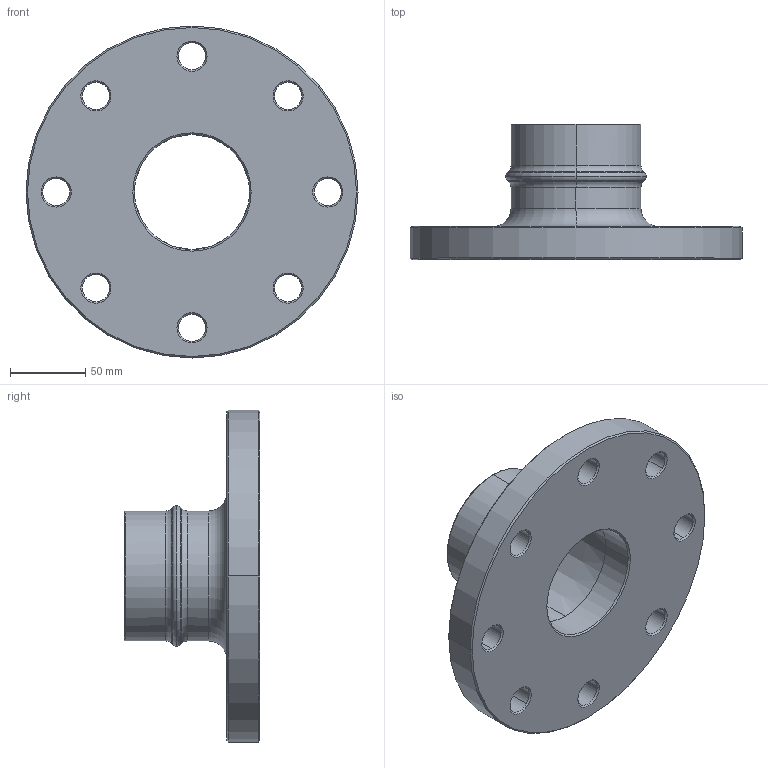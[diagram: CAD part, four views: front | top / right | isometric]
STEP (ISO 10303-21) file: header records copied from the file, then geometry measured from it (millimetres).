
FILE_DESCRIPTION((''),'2;1');
FILE_NAME('AU15877100','2019-12-13T',('Administrator'),(''),'PRO/ENGINEER BY PARAMETRIC TECHNOLOGY CORPORATION, 2009360','PRO/ENGINEER BY PARAMETRIC TECHNOLOGY CORPORATION, 2009360','');
FILE_SCHEMA(('AUTOMOTIVE_DESIGN_CC2 { 1 2 10303 214 -1 1 5 2 }'));
Length unit declared in the file: millimetre
Products named in the file (1): AU15877100
Bounding box: 220 x 89.8 x 220 mm (x, y, z)
Volume: 782421.8 mm3; surface area: 125679.5 mm2
Topology: 1 solids, 1 shells, 85 faces, 196 edges, 114 vertices
Faces by surface type: cone 44, cylinder 24, torus 14, plane 3
Entity records: 3073 total; most frequent: DIRECTION 494, CARTESIAN_POINT 395, ORIENTED_EDGE 392, AXIS2_PLACEMENT_3D 213, PRESENTATION_STYLE_ASSIGNMENT 197, STYLED_ITEM 197, CURVE_STYLE 196, EDGE_CURVE 196
